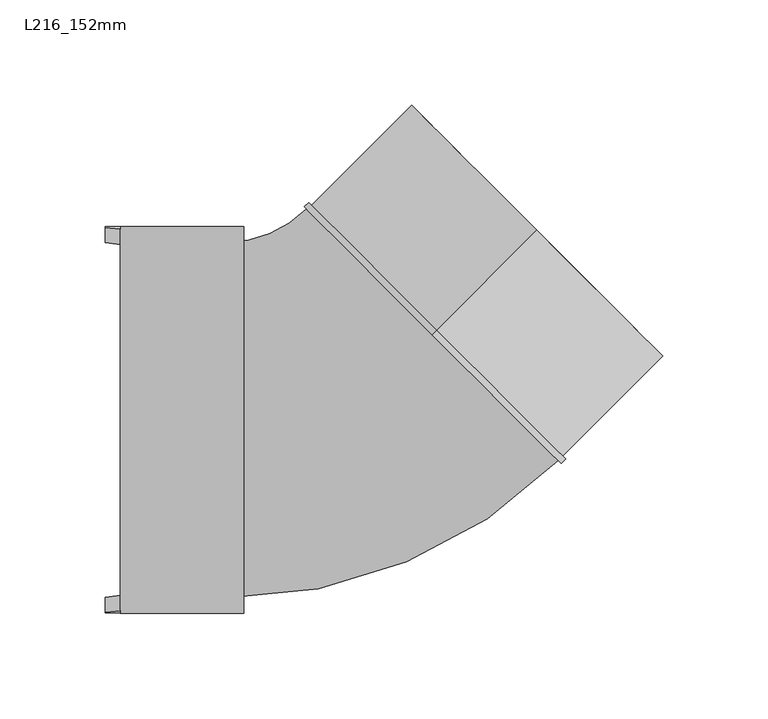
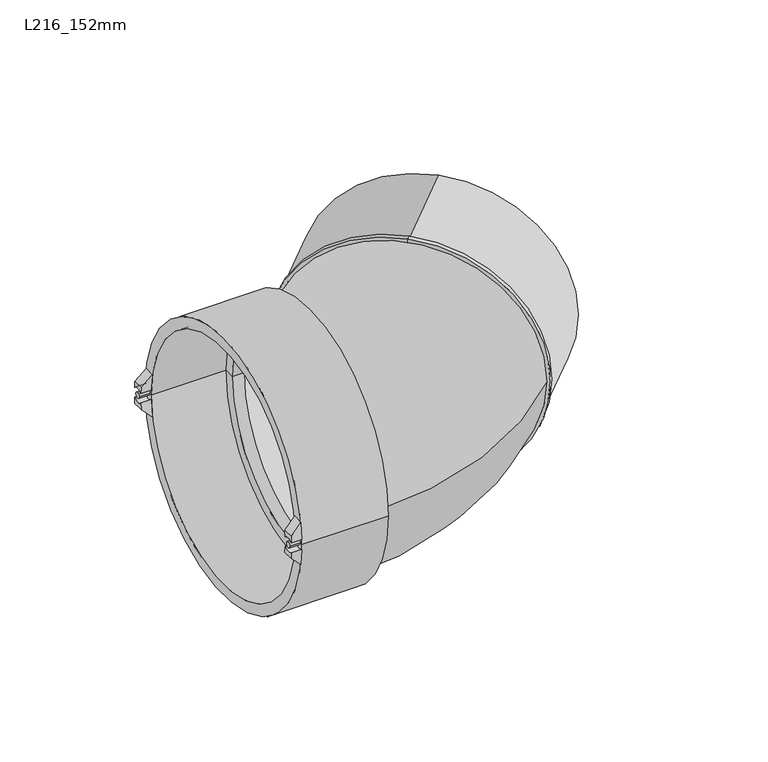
"""IFC4 building model written with IfcOpenShell, lengths in millimetres: pipe fitting geometry, Durapipe_PipeFitting_VulcatheneEnfusion_SingleSocketSlowBend_L21 : L216_152mm."""

from ifc_helpers import new_model, si_unit, point, frame, frame_2d, origin, place, context, project, spatial, polyline, circle_curve, ellipse_curve, trimmed, segment, composite_curve, outline, extrude, source, transform, mapped, element, save
from ifc_brep_helpers import plane_surface, cylinder_surface, revolved_surface, advanced_brep


def l216_152mm_cca97ca3(model_context):
    return source(origin(), model_context, "Body", "SolidModel", [
        advanced_brep(
        [(-114.7614716, 84.531746, -3.3976334), (-114.7614716, 91.731746, -3.5393177), (-114.7614716, 91.4559807, -7.94), (-114.7614716, 84.2265778, -7.94), (-107.6614716, 90.5662189, -15.0), (-107.6614716, 91.731746, -3.5393177), (-107.6614716, 84.531746, -3.3976334), (-107.6614716, 83.259594, -15.0)],
        [
            (0, 1, circle_curve(frame((-114.7614716, 88.2, 0.0), z_axis=(1.0, 0.0, 0.0), x_axis=(0.0, -1.0, 0.0)), 5.0)),
            (1, 2, circle_curve(frame((-114.7614716, 0.0, 0.0), z_axis=(-1.0, 0.0, 0.0), x_axis=(0.0, -1.0, 0.0)), 91.8)),
            (2, 3),
            (3, 0, circle_curve(frame((-114.7614716, 0.0, 0.0), z_axis=(1.0, 0.0, 0.0), x_axis=(0.0, -1.0, 0.0)), 84.6)),
            (4, 5, circle_curve(frame((-107.6614716, 0.0, 0.0), z_axis=(1.0, 0.0, 0.0), x_axis=(0.0, -1.0, 0.0)), 91.8)),
            (5, 6, circle_curve(frame((-107.6614716, 88.2, 0.0), z_axis=(-1.0, 0.0, 0.0), x_axis=(0.0, -1.0, 0.0)), 5.0)),
            (6, 7, circle_curve(frame((-107.6614716, 0.0, 0.0), z_axis=(-1.0, 0.0, 0.0), x_axis=(0.0, -1.0, 0.0)), 84.6)),
            (7, 4),
            (6, 0),
            (3, 7, ellipse_curve(frame((-122.7464574, 0.0, 0.0), z_axis=(-0.705106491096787, 0.0, -0.7091014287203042), x_axis=(0.7091014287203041, 0.0, -0.705106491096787)), 119.9818766, 84.6)),
            (4, 2, ellipse_curve(frame((-122.7464574, 0.0, 0.0), z_axis=(0.705106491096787, 0.0, 0.7091014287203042), x_axis=(-0.7091014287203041, 0.0, 0.705106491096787)), 130.1931001, 91.8)),
            (1, 5),
        ],
        [
            plane_surface(frame((-114.7614716, 90.5662189, -15.0), z_axis=(-1.0, 0.0, 0.0), x_axis=(0.0, -1.0, 0.0))),
            plane_surface(frame((-107.6614716, 90.5662189, -15.0), z_axis=(1.0, 0.0, 0.0), x_axis=(0.0, 1.0, 0.0))),
            revolved_surface(polyline([(-37.667137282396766, -84.6, 0.0), (-207.82577751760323, -84.6, 0.0)]), (-107.6614716, 0.0, 0.0), (1.0, 0.0, 0.0)),
            cylinder_surface(frame((-107.6614716, 0.0, 0.0), z_axis=(-1.0, 0.0, 0.0), x_axis=(0.0, -1.0, 0.0)), 91.8),
            revolved_surface(polyline([(-114.7614716, 83.2, 0.0), (-107.6614716, 83.2, 0.0)]), (-107.6614716, 88.2, 0.0), (-1.0, 0.0, 0.0)),
            plane_surface(frame((-107.6614716, -91.8, -15.0), z_axis=(-0.705106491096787, 0.0, -0.7091014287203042), x_axis=(0.0, 1.0, 0.0))),
        ],
        [
            (0, [[1, 2, 3, 4]]),
            (1, [[5, 6, 7, 8]]),
            (2, [[-7, 9, -4, 10]]),
            (3, [[-5, 11, -2, 12]]),
            (4, [[-1, -9, -6, -12]]),
            (5, [[-3, -11, -8, -10]]),
        ],
    ),
        advanced_brep(
        [(-114.7614716, 91.731746, 3.5393177), (-114.7614716, 84.531746, 3.3976334), (-114.7614716, 84.2265778, 7.94), (-114.7614716, 91.4559807, 7.94), (-107.6614716, 91.731746, 3.5393177), (-107.6614716, 90.5662189, 15.0), (-107.6614716, 83.259594, 15.0), (-107.6614716, 84.531746, 3.3976334)],
        [
            (0, 1, circle_curve(frame((-114.7614716, 88.2, 0.0), z_axis=(1.0, 0.0, 0.0), x_axis=(0.0, -1.0, 0.0)), 5.0)),
            (1, 2, circle_curve(frame((-114.7614716, 0.0, 0.0), z_axis=(1.0, 0.0, 0.0), x_axis=(0.0, -1.0, 0.0)), 84.6)),
            (2, 3),
            (3, 0, circle_curve(frame((-114.7614716, 0.0, 0.0), z_axis=(-1.0, 0.0, 0.0), x_axis=(0.0, -1.0, 0.0)), 91.8)),
            (4, 5, circle_curve(frame((-107.6614716, 0.0, 0.0), z_axis=(1.0, 0.0, 0.0), x_axis=(0.0, -1.0, 0.0)), 91.8)),
            (5, 6),
            (6, 7, circle_curve(frame((-107.6614716, 0.0, 0.0), z_axis=(-1.0, 0.0, 0.0), x_axis=(0.0, -1.0, 0.0)), 84.6)),
            (7, 4, circle_curve(frame((-107.6614716, 88.2, 0.0), z_axis=(-1.0, 0.0, 0.0), x_axis=(0.0, -1.0, 0.0)), 5.0)),
            (6, 2, ellipse_curve(frame((-122.7464574, 0.0, 0.0), z_axis=(-0.7051064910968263, 0.0, 0.7091014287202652), x_axis=(0.7091014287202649, 0.0, 0.7051064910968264)), 119.9818766, 84.6)),
            (1, 7),
            (4, 0),
            (3, 5, ellipse_curve(frame((-122.7464574, 0.0, 0.0), z_axis=(0.7051064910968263, 0.0, -0.7091014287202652), x_axis=(-0.7091014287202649, 0.0, -0.7051064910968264)), 130.1931001, 91.8)),
        ],
        [
            plane_surface(frame((-114.7614716, 90.5662189, -15.0), z_axis=(-1.0, 0.0, 0.0), x_axis=(0.0, -1.0, 0.0))),
            plane_surface(frame((-107.6614716, 90.5662189, -15.0), z_axis=(1.0, 0.0, 0.0), x_axis=(0.0, 1.0, 0.0))),
            revolved_surface(polyline([(-37.66713728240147, -84.6, 0.0), (-207.8257775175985, -84.6, 0.0)]), (-107.6614716, 0.0, 0.0), (1.0, 0.0, 0.0)),
            cylinder_surface(frame((-107.6614716, 0.0, 0.0), z_axis=(-1.0, 0.0, 0.0), x_axis=(0.0, -1.0, 0.0)), 91.8),
            revolved_surface(polyline([(-114.7614716, 83.2, 0.0), (-107.6614716, 83.2, 0.0)]), (-107.6614716, 88.2, 0.0), (-1.0, 0.0, 0.0)),
            plane_surface(frame((-114.7614716, -91.8, 7.94), z_axis=(-0.7051064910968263, 0.0, 0.7091014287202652), x_axis=(0.0, 1.0, 0.0))),
        ],
        [
            (0, [[1, 2, 3, 4]]),
            (1, [[5, 6, 7, 8]]),
            (2, [[-7, 9, -2, 10]]),
            (3, [[-5, 11, -4, 12]]),
            (4, [[-1, -11, -8, -10]]),
            (5, [[-3, -9, -6, -12]]),
        ],
    ),
        advanced_brep(
        [(-114.7614716, -91.731746, -3.5393177), (-114.7614716, -84.531746, -3.3976334), (-114.7614716, -84.2265778, -7.94), (-114.7614716, -91.4559807, -7.94), (-107.6614716, -91.731746, -3.5393177), (-107.6614716, -90.5662189, -15.0), (-107.6614716, -83.259594, -15.0), (-107.6614716, -84.531746, -3.3976334)],
        [
            (0, 1, circle_curve(frame((-114.7614716, -88.2, 0.0), z_axis=(1.0, 0.0, 0.0), x_axis=(0.0, -1.0, 0.0)), 5.0)),
            (1, 2, circle_curve(frame((-114.7614716, 0.0, 0.0), z_axis=(1.0, 0.0, 0.0), x_axis=(0.0, -1.0, 0.0)), 84.6)),
            (2, 3),
            (3, 0, circle_curve(frame((-114.7614716, 0.0, 0.0), z_axis=(-1.0, 0.0, 0.0), x_axis=(0.0, -1.0, 0.0)), 91.8)),
            (4, 5, circle_curve(frame((-107.6614716, 0.0, 0.0), z_axis=(1.0, 0.0, 0.0), x_axis=(0.0, -1.0, 0.0)), 91.8)),
            (5, 6),
            (6, 7, circle_curve(frame((-107.6614716, 0.0, 0.0), z_axis=(-1.0, 0.0, 0.0), x_axis=(0.0, -1.0, 0.0)), 84.6)),
            (7, 4, circle_curve(frame((-107.6614716, -88.2, 0.0), z_axis=(-1.0, 0.0, 0.0), x_axis=(0.0, -1.0, 0.0)), 5.0)),
            (6, 2, ellipse_curve(frame((-122.7464574, 0.0, 0.0), z_axis=(-0.705106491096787, 0.0, -0.7091014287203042), x_axis=(0.7091014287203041, 0.0, -0.705106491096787)), 119.9818766, 84.6)),
            (1, 7),
            (4, 0),
            (3, 5, ellipse_curve(frame((-122.7464574, 0.0, 0.0), z_axis=(0.705106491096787, 0.0, 0.7091014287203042), x_axis=(-0.7091014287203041, 0.0, 0.705106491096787)), 130.1931001, 91.8)),
        ],
        [
            plane_surface(frame((-114.7614716, 90.5662189, -15.0), z_axis=(-1.0, 0.0, 0.0), x_axis=(0.0, -1.0, 0.0))),
            plane_surface(frame((-107.6614716, 90.5662189, -15.0), z_axis=(1.0, 0.0, 0.0), x_axis=(0.0, 1.0, 0.0))),
            revolved_surface(polyline([(-37.667137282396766, -84.6, 0.0), (-207.82577751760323, -84.6, 0.0)]), (-107.6614716, 0.0, 0.0), (1.0, 0.0, 0.0)),
            cylinder_surface(frame((-107.6614716, 0.0, 0.0), z_axis=(-1.0, 0.0, 0.0), x_axis=(0.0, -1.0, 0.0)), 91.8),
            revolved_surface(polyline([(-114.7614716, -93.2, 0.0), (-107.6614716, -93.2, 0.0)]), (-107.6614716, -88.2, 0.0), (-1.0, 0.0, 0.0)),
            plane_surface(frame((-107.6614716, -91.8, -15.0), z_axis=(-0.705106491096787, 0.0, -0.7091014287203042), x_axis=(0.0, 1.0, 0.0))),
        ],
        [
            (0, [[1, 2, 3, 4]]),
            (1, [[5, 6, 7, 8]]),
            (2, [[-7, 9, -2, 10]]),
            (3, [[-5, 11, -4, 12]]),
            (4, [[-1, -11, -8, -10]]),
            (5, [[-3, -9, -6, -12]]),
        ],
    ),
        advanced_brep(
        [(-114.7614716, -84.531746, 3.3976334), (-114.7614716, -91.731746, 3.5393177), (-114.7614716, -91.4559807, 7.94), (-114.7614716, -84.2265778, 7.94), (-107.6614716, -90.5662189, 15.0), (-107.6614716, -91.731746, 3.5393177), (-107.6614716, -84.531746, 3.3976334), (-107.6614716, -83.259594, 15.0)],
        [
            (0, 1, circle_curve(frame((-114.7614716, -88.2, 0.0), z_axis=(1.0, 0.0, 0.0), x_axis=(0.0, -1.0, 0.0)), 5.0)),
            (1, 2, circle_curve(frame((-114.7614716, 0.0, 0.0), z_axis=(-1.0, 0.0, 0.0), x_axis=(0.0, -1.0, 0.0)), 91.8)),
            (2, 3),
            (3, 0, circle_curve(frame((-114.7614716, 0.0, 0.0), z_axis=(1.0, 0.0, 0.0), x_axis=(0.0, -1.0, 0.0)), 84.6)),
            (4, 5, circle_curve(frame((-107.6614716, 0.0, 0.0), z_axis=(1.0, 0.0, 0.0), x_axis=(0.0, -1.0, 0.0)), 91.8)),
            (5, 6, circle_curve(frame((-107.6614716, -88.2, 0.0), z_axis=(-1.0, 0.0, 0.0), x_axis=(0.0, -1.0, 0.0)), 5.0)),
            (6, 7, circle_curve(frame((-107.6614716, 0.0, 0.0), z_axis=(-1.0, 0.0, 0.0), x_axis=(0.0, -1.0, 0.0)), 84.6)),
            (7, 4),
            (6, 0),
            (3, 7, ellipse_curve(frame((-122.7464574, 0.0, 0.0), z_axis=(-0.7051064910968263, 0.0, 0.7091014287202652), x_axis=(0.7091014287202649, 0.0, 0.7051064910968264)), 119.9818766, 84.6)),
            (4, 2, ellipse_curve(frame((-122.7464574, 0.0, 0.0), z_axis=(0.7051064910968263, 0.0, -0.7091014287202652), x_axis=(-0.7091014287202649, 0.0, -0.7051064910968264)), 130.1931001, 91.8)),
            (1, 5),
        ],
        [
            plane_surface(frame((-114.7614716, 90.5662189, -15.0), z_axis=(-1.0, 0.0, 0.0), x_axis=(0.0, -1.0, 0.0))),
            plane_surface(frame((-107.6614716, 90.5662189, -15.0), z_axis=(1.0, 0.0, 0.0), x_axis=(0.0, 1.0, 0.0))),
            revolved_surface(polyline([(-37.66713728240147, -84.6, 0.0), (-207.8257775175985, -84.6, 0.0)]), (-107.6614716, 0.0, 0.0), (1.0, 0.0, 0.0)),
            cylinder_surface(frame((-107.6614716, 0.0, 0.0), z_axis=(-1.0, 0.0, 0.0), x_axis=(0.0, -1.0, 0.0)), 91.8),
            revolved_surface(polyline([(-114.7614716, -93.2, 0.0), (-107.6614716, -93.2, 0.0)]), (-107.6614716, -88.2, 0.0), (-1.0, 0.0, 0.0)),
            plane_surface(frame((-114.7614716, -91.8, 7.94), z_axis=(-0.7051064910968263, 0.0, 0.7091014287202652), x_axis=(0.0, 1.0, 0.0))),
        ],
        [
            (0, [[1, 2, 3, 4]]),
            (1, [[5, 6, 7, 8]]),
            (2, [[-7, 9, -4, 10]]),
            (3, [[-5, 11, -2, 12]]),
            (4, [[-1, -9, -6, -12]]),
            (5, [[-3, -11, -8, -10]]),
        ],
    ),
        extrude(outline(composite_curve([segment(trimmed(circle_curve(frame_2d((88.2, 0.0)), 2.0), [point((90.2, 0.0))], [point((86.2, 0.0))], False, "CARTESIAN"), True, "CONTINUOUS"), segment(trimmed(circle_curve(frame_2d((88.2, 0.0)), 2.0), [point((86.2, 0.0))], [point((90.2, 0.0))], False, "CARTESIAN"), True, "CONTINUOUS")], self_intersect=False)), frame((-114.7614716, 0.0, 0.0), z_axis=(1.0, 0.0, 0.0), x_axis=(0.0, 1.0, 0.0)), (0.0, 0.0, 1.0), 7.1),
        extrude(outline(composite_curve([segment(trimmed(circle_curve(frame_2d((-88.2, 0.0)), 2.0), [point((-86.2, 0.0))], [point((-90.2, 0.0))], False, "CARTESIAN"), True, "CONTINUOUS"), segment(trimmed(circle_curve(frame_2d((-88.2, 0.0)), 2.0), [point((-90.2, 0.0))], [point((-86.2, 0.0))], False, "CARTESIAN"), True, "CONTINUOUS")], self_intersect=False)), frame((-114.7614716, 0.0, 0.0), z_axis=(1.0, 0.0, 0.0), x_axis=(0.0, 1.0, 0.0)), (0.0, 0.0, 1.0), 7.1),
        advanced_brep(
        [(-57.1614716, 77.05, 0.0), (-57.1614716, -77.05, 0.0), (-57.1614716, -84.45, 0.0), (-57.1614716, 84.45, 0.0), (-49.1614716, 77.05, 0.0), (-49.1614716, -77.05, 0.0), (-49.1614716, 91.95, 0.0), (-49.1614716, -91.95, 0.0), (-107.6614716, 91.95, 0.0), (-107.6614716, -91.95, 0.0), (-107.6614716, 84.45, 0.0), (-107.6614716, -84.45, 0.0)],
        [
            (0, 1, circle_curve(frame((-57.1614716, 0.0, 0.0), z_axis=(1.0, 0.0, 0.0), x_axis=(0.0, -1.0, 0.0)), 77.05)),
            (1, 2),
            (2, 3, circle_curve(frame((-57.1614716, 0.0, 0.0), z_axis=(-1.0, 0.0, 0.0), x_axis=(0.0, -1.0, 0.0)), 84.45)),
            (3, 0),
            (1, 0, circle_curve(frame((-57.1614716, 0.0, 0.0), z_axis=(1.0, 0.0, 0.0), x_axis=(0.0, -1.0, 0.0)), 77.05)),
            (3, 2, circle_curve(frame((-57.1614716, 0.0, 0.0), z_axis=(-1.0, 0.0, 0.0), x_axis=(0.0, -1.0, 0.0)), 84.45)),
            (4, 5, circle_curve(frame((-49.1614716, 0.0, 0.0), z_axis=(1.0, 0.0, 0.0), x_axis=(0.0, -1.0, 0.0)), 77.05)),
            (5, 1),
            (0, 4),
            (5, 4, circle_curve(frame((-49.1614716, 0.0, 0.0), z_axis=(1.0, 0.0, 0.0), x_axis=(0.0, -1.0, 0.0)), 77.05)),
            (6, 7, circle_curve(frame((-49.1614716, 0.0, 0.0), z_axis=(1.0, 0.0, 0.0), x_axis=(0.0, -1.0, 0.0)), 91.95)),
            (7, 5),
            (4, 6),
            (7, 6, circle_curve(frame((-49.1614716, 0.0, 0.0), z_axis=(1.0, 0.0, 0.0), x_axis=(0.0, -1.0, 0.0)), 91.95)),
            (8, 9, circle_curve(frame((-107.6614716, 0.0, 0.0), z_axis=(1.0, 0.0, 0.0), x_axis=(0.0, -1.0, 0.0)), 91.95)),
            (9, 7),
            (6, 8),
            (9, 8, circle_curve(frame((-107.6614716, 0.0, 0.0), z_axis=(1.0, 0.0, 0.0), x_axis=(0.0, -1.0, 0.0)), 91.95)),
            (10, 11, circle_curve(frame((-107.6614716, 0.0, 0.0), z_axis=(1.0, 0.0, 0.0), x_axis=(0.0, -1.0, 0.0)), 84.45)),
            (11, 9),
            (8, 10),
            (11, 10, circle_curve(frame((-107.6614716, 0.0, 0.0), z_axis=(1.0, 0.0, 0.0), x_axis=(0.0, -1.0, 0.0)), 84.45)),
            (2, 11),
            (10, 3),
        ],
        [
            plane_surface(frame((-57.1614716, 0.0, 0.0), z_axis=(-1.0, 0.0, 0.0), x_axis=(0.0, -1.0, 0.0))),
            revolved_surface(polyline([(-57.16147159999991, -77.05, 0.0), (-49.16147159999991, -77.05, 0.0)]), (-2621.6440957, 0.0, 0.0), (-1.0, 0.0, 0.0)),
            plane_surface(frame((-49.1614716, 0.0, 0.0), z_axis=(1.0, 0.0, 0.0), x_axis=(0.0, -1.0, 0.0))),
            cylinder_surface(frame((-2621.6440957, 0.0, 0.0), z_axis=(-1.0, 0.0, 0.0), x_axis=(0.0, -1.0, 0.0)), 91.95),
            plane_surface(frame((-107.6614716, 0.0, 0.0), z_axis=(-1.0, 0.0, 0.0), x_axis=(0.0, -1.0, 0.0))),
            revolved_surface(polyline([(-107.66147159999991, -84.45, 0.0), (-57.16147159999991, -84.45, 0.0)]), (-2621.6440957, 0.0, 0.0), (-1.0, 0.0, 0.0)),
        ],
        [
            (0, [[1, 2, 3, 4]]),
            (0, [[5, -4, 6, -2]]),
            (1, [[7, 8, -1, 9]]),
            (1, [[10, -9, -5, -8]]),
            (2, [[11, 12, -7, 13]]),
            (2, [[14, -13, -10, -12]]),
            (3, [[15, 16, -11, 17]]),
            (3, [[18, -17, -14, -16]]),
            (4, [[19, 20, -15, 21]]),
            (4, [[22, -21, -18, -20]]),
            (5, [[-3, 23, -19, 24]]),
            (5, [[-6, -24, -22, -23]]),
        ],
    ),
        advanced_brep(
        [(40.4192642, 40.4192642, -86.45), (40.4192642, 40.4192642, 86.45), (40.4192642, 40.4192642, 77.05), (40.4192642, 40.4192642, -77.05), (42.5405845, 42.5405845, -86.45), (42.5405845, 42.5405845, 86.45), (42.5405845, 42.5405845, -84.45), (42.5405845, 42.5405845, 84.45), (90.0581602, 90.0581602, -84.45), (90.0581602, 90.0581602, 84.45), (90.0581602, 90.0581602, -77.05), (90.0581602, 90.0581602, 77.05)],
        [
            (0, 1, circle_curve(frame((40.4192642, 40.4192642, 0.0), z_axis=(-0.7071067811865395, -0.7071067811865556, 0.0), x_axis=(0.0, 0.0, 1.0)), 86.45)),
            (1, 2),
            (2, 3, circle_curve(frame((40.4192642, 40.4192642, 0.0), z_axis=(0.7071067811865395, 0.7071067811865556, 0.0), x_axis=(0.0, 0.0, 1.0)), 77.05)),
            (3, 0),
            (1, 0, circle_curve(frame((40.4192642, 40.4192642, 0.0), z_axis=(-0.7071067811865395, -0.7071067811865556, 0.0), x_axis=(0.0, 0.0, 1.0)), 86.45)),
            (3, 2, circle_curve(frame((40.4192642, 40.4192642, 0.0), z_axis=(0.7071067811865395, 0.7071067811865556, 0.0), x_axis=(0.0, 0.0, 1.0)), 77.05)),
            (4, 5, circle_curve(frame((42.5405845, 42.5405845, 0.0), z_axis=(-0.7071067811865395, -0.7071067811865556, 0.0), x_axis=(0.0, 0.0, 1.0)), 86.45)),
            (5, 1),
            (0, 4),
            (5, 4, circle_curve(frame((42.5405845, 42.5405845, 0.0), z_axis=(-0.7071067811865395, -0.7071067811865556, 0.0), x_axis=(0.0, 0.0, 1.0)), 86.45)),
            (6, 7, circle_curve(frame((42.5405845, 42.5405845, 0.0), z_axis=(-0.7071067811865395, -0.7071067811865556, 0.0), x_axis=(0.0, 0.0, 1.0)), 84.45)),
            (7, 5),
            (4, 6),
            (7, 6, circle_curve(frame((42.5405845, 42.5405845, 0.0), z_axis=(-0.7071067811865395, -0.7071067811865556, 0.0), x_axis=(0.0, 0.0, 1.0)), 84.45)),
            (8, 9, circle_curve(frame((90.0581602, 90.0581602, 0.0), z_axis=(-0.7071067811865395, -0.7071067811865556, 0.0), x_axis=(0.0, 0.0, 1.0)), 84.45)),
            (9, 7),
            (6, 8),
            (9, 8, circle_curve(frame((90.0581602, 90.0581602, 0.0), z_axis=(-0.7071067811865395, -0.7071067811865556, 0.0), x_axis=(0.0, 0.0, 1.0)), 84.45)),
            (10, 11, circle_curve(frame((90.0581602, 90.0581602, 0.0), z_axis=(-0.7071067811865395, -0.7071067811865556, 0.0), x_axis=(0.0, 0.0, 1.0)), 77.05)),
            (11, 9),
            (8, 10),
            (11, 10, circle_curve(frame((90.0581602, 90.0581602, 0.0), z_axis=(-0.7071067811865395, -0.7071067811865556, 0.0), x_axis=(0.0, 0.0, 1.0)), 77.05)),
            (2, 11),
            (10, 3),
        ],
        [
            plane_surface(frame((40.4192642, 40.4192642, 0.0), z_axis=(-0.7071067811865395, -0.7071067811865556, 0.0), x_axis=(0.0, 0.0, 1.0))),
            cylinder_surface(frame((1892.5144292, 1892.5144292, 0.0), z_axis=(0.7071067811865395, 0.7071067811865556, 0.0), x_axis=(0.0, 0.0, 1.0)), 86.45),
            plane_surface(frame((42.5405845, 42.5405845, 0.0), z_axis=(0.7071067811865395, 0.7071067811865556, 0.0), x_axis=(0.0, 0.0, 1.0))),
            cylinder_surface(frame((1892.5144292, 1892.5144292, 0.0), z_axis=(0.7071067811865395, 0.7071067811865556, 0.0), x_axis=(0.0, 0.0, 1.0)), 84.45),
            plane_surface(frame((90.0581602, 90.0581602, 0.0), z_axis=(0.7071067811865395, 0.7071067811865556, 0.0), x_axis=(0.0, 0.0, 1.0))),
            revolved_surface(polyline([(90.05816020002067, 90.05816019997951, 77.05), (40.41926420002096, 40.4192641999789, 77.05)]), (1892.5144292, 1892.5144292, 0.0), (0.7071067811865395, 0.7071067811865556, 0.0)),
        ],
        [
            (0, [[1, 2, 3, 4]]),
            (0, [[5, -4, 6, -2]]),
            (1, [[7, 8, -1, 9]]),
            (1, [[10, -9, -5, -8]]),
            (2, [[11, 12, -7, 13]]),
            (2, [[14, -13, -10, -12]]),
            (3, [[15, 16, -11, 17]]),
            (3, [[18, -17, -14, -16]]),
            (4, [[19, 20, -15, 21]]),
            (4, [[22, -21, -18, -20]]),
            (5, [[-3, 23, -19, 24]]),
            (5, [[-6, -24, -22, -23]]),
        ],
    ),
        advanced_brep(
        [(-57.1614716, -84.45, 0.0), (-57.1614716, 84.45, 0.0), (-57.1614716, -77.05, 0.0), (-57.1614716, 77.05, 0.0), (100.1344319, -19.2959035, 0.0), (-19.2959035, 100.1344319, 0.0), (94.9018417, -14.0633133, 0.0), (-14.0633133, 94.9018417, 0.0)],
        [
            (0, 1, circle_curve(frame((-57.1614716, 0.0, 0.0), z_axis=(-1.0, 0.0, 0.0), x_axis=(0.0, 1.0, 0.0)), 84.45)),
            (1, 0, circle_curve(frame((-57.1614716, 0.0, 0.0), z_axis=(-1.0, 0.0, 0.0), x_axis=(0.0, 1.0, 0.0)), 84.45)),
            (2, 3, circle_curve(frame((-57.1614716, 0.0, 0.0), z_axis=(1.0, 0.0, 0.0), x_axis=(0.0, 1.0, 0.0)), 77.05)),
            (3, 2, circle_curve(frame((-57.1614716, 0.0, 0.0), z_axis=(1.0, 0.0, 0.0), x_axis=(0.0, 1.0, 0.0)), 77.05)),
            (4, 5, circle_curve(frame((40.4192642, 40.4192642, 0.0), z_axis=(0.7071067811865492, 0.7071067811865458, 0.0), x_axis=(-0.7071067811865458, 0.7071067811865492, 0.0)), 84.45)),
            (5, 4, circle_curve(frame((40.4192642, 40.4192642, 0.0), z_axis=(0.7071067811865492, 0.7071067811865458, 0.0), x_axis=(-0.7071067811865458, 0.7071067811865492, 0.0)), 84.45)),
            (6, 7, circle_curve(frame((40.4192642, 40.4192642, 0.0), z_axis=(-0.7071067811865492, -0.7071067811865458, 0.0), x_axis=(-0.7071067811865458, 0.7071067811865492, 0.0)), 77.05)),
            (7, 6, circle_curve(frame((40.4192642, 40.4192642, 0.0), z_axis=(-0.7071067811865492, -0.7071067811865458, 0.0), x_axis=(-0.7071067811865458, 0.7071067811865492, 0.0)), 77.05)),
            (5, 1, circle_curve(frame((-57.1614716, 138.0, 0.0), z_axis=(0.0, 0.0, -1.0), x_axis=(0.0, -1.0, 0.0)), 53.55)),
            (0, 4, circle_curve(frame((-57.1614716, 138.0, 0.0), z_axis=(0.0, 0.0, 1.0), x_axis=(0.0, -1.0, 0.0)), 222.45)),
            (7, 3, circle_curve(frame((-57.1614716, 138.0, 0.0), z_axis=(0.0, 0.0, -1.0), x_axis=(0.0, -1.0, 0.0)), 60.95)),
            (2, 6, circle_curve(frame((-57.1614716, 138.0, 0.0), z_axis=(0.0, 0.0, 1.0), x_axis=(0.0, -1.0, 0.0)), 215.05)),
        ],
        [
            plane_surface(frame((-57.1614716, 0.0, 0.0), z_axis=(-1.0, 0.0, 0.0), x_axis=(0.0, 0.0, 1.0))),
            plane_surface(frame((40.4192642, 40.4192642, 0.0), z_axis=(0.7071067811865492, 0.7071067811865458, 0.0), x_axis=(0.0, 0.0, 1.0))),
            revolved_surface(trimmed(ellipse_curve(frame((-57.1614716, 0.0, 0.0), z_axis=(-1.0, 0.0, 0.0), x_axis=(0.0, 1.0, 0.0)), 84.45, 84.45), [point((-57.1614716, -84.45, 0.0))], [point((-57.1614716, 84.45, 0.0))], True, "CARTESIAN"), (-57.1614716, 138.0, 0.0), (0.0, 0.0, 1.0)),
            revolved_surface(trimmed(ellipse_curve(frame((-57.1614716, 0.0, 0.0), z_axis=(-1.0, 0.0, 0.0), x_axis=(0.0, 1.0, 0.0)), 84.45, 84.45), [point((-57.1614716, 84.45, 0.0))], [point((-57.1614716, -84.45, 0.0))], True, "CARTESIAN"), (-57.1614716, 138.0, 0.0), (0.0, 0.0, 1.0)),
            revolved_surface(trimmed(ellipse_curve(frame((-57.1614716, 0.0, 0.0), z_axis=(1.0, 0.0, 0.0), x_axis=(0.0, 1.0, 0.0)), 77.05, 77.05), [point((-57.1614716, -77.05, 0.0))], [point((-57.1614716, 77.05, 0.0))], True, "CARTESIAN"), (-57.1614716, 138.0, 0.0), (0.0, 0.0, 1.0)),
            revolved_surface(trimmed(ellipse_curve(frame((-57.1614716, 0.0, 0.0), z_axis=(1.0, 0.0, 0.0), x_axis=(0.0, 1.0, 0.0)), 77.05, 77.05), [point((-57.1614716, 77.05, 0.0))], [point((-57.1614716, -77.05, 0.0))], True, "CARTESIAN"), (-57.1614716, 138.0, 0.0), (0.0, 0.0, 1.0)),
        ],
        [
            (0, [[1, 2], [3, 4]]),
            (1, [[5, 6], [7, 8]]),
            (2, [[9, -1, 10, -6]]),
            (3, [[-10, -2, -9, -5]]),
            (4, [[11, -3, 12, -8]]),
            (5, [[-12, -4, -11, -7]]),
        ],
    ),
    ])


if __name__ == "__main__":
    model = new_model("IFC4")
    model_context = context("Model", 3, world=origin())
    ifc_project = project(units=[si_unit("LENGTHUNIT", "METRE", prefix="MILLI")], contexts=[model_context])
    site = spatial("IfcSite", under=ifc_project)
    building = spatial("IfcBuilding", under=site)
    placement = place(None, origin())
    l216_152mm_shape = l216_152mm_cca97ca3(model_context)
    element("IfcPipeFitting", 1, ObjectType="Durapipe_PipeFitting_VulcatheneEnfusion_SingleSocketSlowBend_L21 : L216_152mm", at=placement, inside=building, context=model_context, shape_type="MappedRepresentation", body=[
        mapped(l216_152mm_shape, transform((0.0, 0.0, 0.0), x_axis=(1.0, 0.0, 0.0), y_axis=(0.0, 1.0, 0.0), z_axis=(0.0, 0.0, 1.0))),
    ])
    save(model, "model.ifc")
